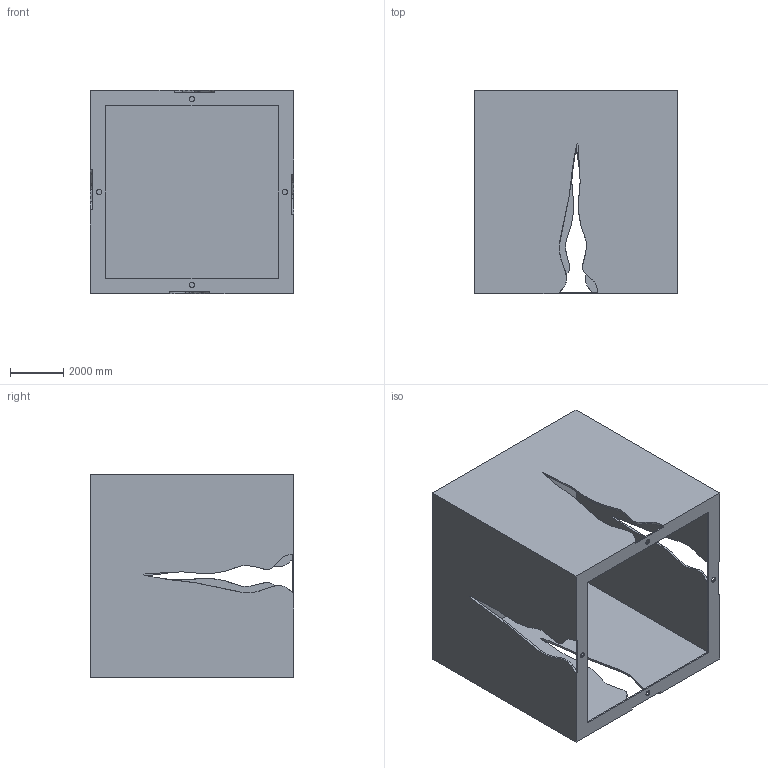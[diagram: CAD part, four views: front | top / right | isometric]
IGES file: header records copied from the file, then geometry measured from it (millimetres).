
Global section: file name: Crack Cube Outdoor Light-D11.8″,4; native system: 8HAutoCAD 2022 - 简体中文 (Simplified Chinese); preprocessor: Autodesk Translation Framework DWG producer (atf_dwg_producer); organization: unknown; date: 20250726.160629; units: inch
Bounding box: 7620 x 7620 x 7620 mm (x, y, z)
Volume: 17203647979.1 mm3; surface area: 581425475.2 mm2
Topology: 1 solids, 1 shells, 28 faces, 88 edges, 56 vertices
Faces by surface type: bspline 28
